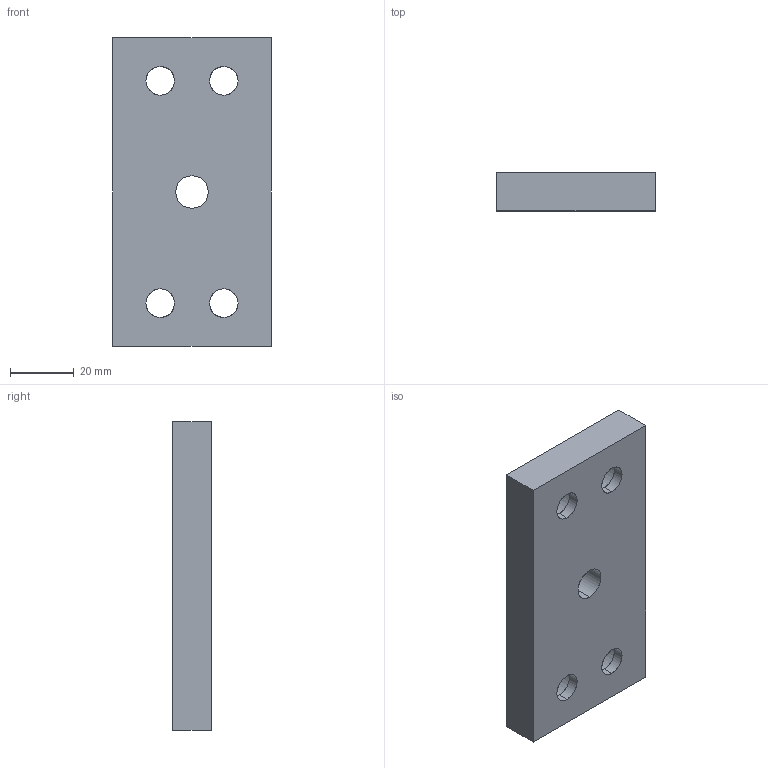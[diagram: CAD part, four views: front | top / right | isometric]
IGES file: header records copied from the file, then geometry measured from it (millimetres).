
Start section: SolidWorks IGES file using analytic representation for surfaces
Global section: file name: C:\Documents and Settings\Administrator\デスクトップ\指定保存後3回目\SolidWorks\SF\SF30\Parts\SFK-69A.IGS; native system: SolidWorks 2006 by SolidWorks Corporation; preprocessor: SolidWorks 2006 by SolidWorks Corporation; author: Administrator; date: 061213.110842; units: millimetre
Bounding box: 50 x 12 x 97 mm (x, y, z)
Surface area: 14837.7 mm2 (no closed solid volume)
Topology: 0 solids, 0 shells, 28 faces, 738 edges, 804 vertices
Faces by surface type: revolution 18, bspline 10
